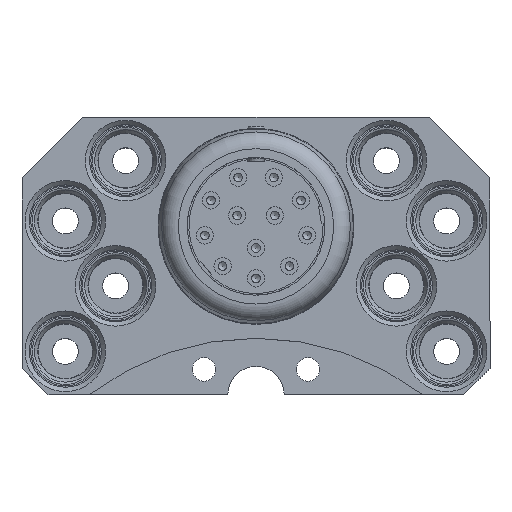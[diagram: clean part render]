
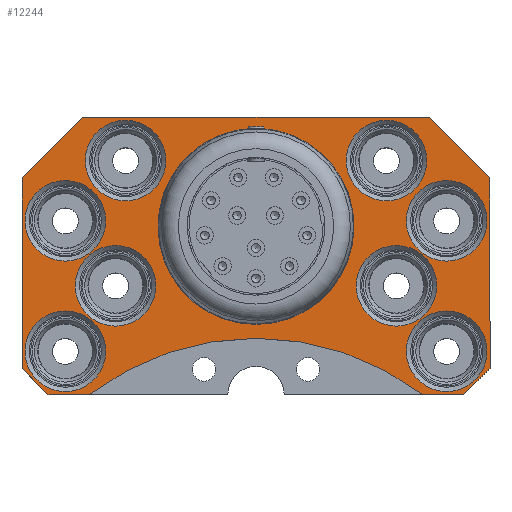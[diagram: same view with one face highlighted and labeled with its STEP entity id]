
A CAD part, top view. The second image highlights one B-rep face of the part: STEP entity #12244.
In plain terms, the highlighted planar face has unit normal (0, 0, 1).
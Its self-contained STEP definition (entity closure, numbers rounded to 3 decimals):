
#11557=CARTESIAN_POINT('',(0.0,8.1,0.));
#11558=VERTEX_POINT('',#11557);
#11559=CARTESIAN_POINT('',(0.0,19.4,0.));
#11560=DIRECTION('',(0.0,0.0,-1.0));
#11561=DIRECTION('',(0.0,-1.0,0.0));
#11562=AXIS2_PLACEMENT_3D('',#11559,#11560,#11561);
#11563=CIRCLE('',#11562,11.3);
#11564=EDGE_CURVE('',#11558,#11558,#11563,.T.);
#12061=CARTESIAN_POINT('',(20.85,12.55,0.0));
#12062=VERTEX_POINT('',#12061);
#12063=CARTESIAN_POINT('',(16.2,12.55,0.0));
#12064=DIRECTION('',(0.0,0.0,1.0));
#12065=DIRECTION('',(-1.0,0.0,0.0));
#12066=AXIS2_PLACEMENT_3D('',#12063,#12064,#12065);
#12067=CIRCLE('',#12066,4.65);
#12068=EDGE_CURVE('',#12062,#12062,#12067,.T.);
#12073=CARTESIAN_POINT('',(0.,15.429,0.0));
#12074=DIRECTION('',(0.0,0.0,1.0));
#12075=DIRECTION('',(1.0,0.0,0.0));
#12076=AXIS2_PLACEMENT_3D('',#12073,#12074,#12075);
#12077=PLANE('',#12076);
#12078=CARTESIAN_POINT('',(-19.198,0.,0.0));
#12079=VERTEX_POINT('',#12078);
#12080=CARTESIAN_POINT('',(19.198,0.,0.0));
#12081=VERTEX_POINT('',#12080);
#12082=CARTESIAN_POINT('',(0.0,-25.1,0.0));
#12083=DIRECTION('',(0.0,0.0,-1.0));
#12084=DIRECTION('',(-1.0,0.0,0.0));
#12085=AXIS2_PLACEMENT_3D('',#12082,#12083,#12084);
#12086=CIRCLE('',#12085,31.6);
#12087=EDGE_CURVE('',#12079,#12081,#12086,.T.);
#12088=ORIENTED_EDGE('',*,*,#12087,.T.);
#12089=CARTESIAN_POINT('',(24.,0.,0.0));
#12090=VERTEX_POINT('',#12089);
#12091=CARTESIAN_POINT('',(24.,0.,0.0));
#12092=DIRECTION('',(-1.0,0.0,0.0));
#12093=VECTOR('',#12092,4.802);
#12094=LINE('',#12091,#12093);
#12095=EDGE_CURVE('',#12090,#12081,#12094,.T.);
#12096=ORIENTED_EDGE('',*,*,#12095,.F.);
#12097=CARTESIAN_POINT('',(27.,3.,0.0));
#12098=VERTEX_POINT('',#12097);
#12099=CARTESIAN_POINT('',(27.,3.,0.0));
#12100=DIRECTION('',(-0.707,-0.707,0.0));
#12101=VECTOR('',#12100,4.243);
#12102=LINE('',#12099,#12101);
#12103=EDGE_CURVE('',#12098,#12090,#12102,.T.);
#12104=ORIENTED_EDGE('',*,*,#12103,.F.);
#12105=CARTESIAN_POINT('',(27.,25.,0.0));
#12106=VERTEX_POINT('',#12105);
#12107=CARTESIAN_POINT('',(27.,25.,0.0));
#12108=DIRECTION('',(0.0,-1.0,0.0));
#12109=VECTOR('',#12108,22.);
#12110=LINE('',#12107,#12109);
#12111=EDGE_CURVE('',#12106,#12098,#12110,.T.);
#12112=ORIENTED_EDGE('',*,*,#12111,.F.);
#12113=CARTESIAN_POINT('',(20.,32.,0.0));
#12114=VERTEX_POINT('',#12113);
#12115=CARTESIAN_POINT('',(20.,32.,0.0));
#12116=DIRECTION('',(0.707,-0.707,0.0));
#12117=VECTOR('',#12116,9.899);
#12118=LINE('',#12115,#12117);
#12119=EDGE_CURVE('',#12114,#12106,#12118,.T.);
#12120=ORIENTED_EDGE('',*,*,#12119,.F.);
#12121=CARTESIAN_POINT('',(-20.,32.,0.0));
#12122=VERTEX_POINT('',#12121);
#12123=CARTESIAN_POINT('',(-20.,32.,0.0));
#12124=DIRECTION('',(1.0,0.0,0.0));
#12125=VECTOR('',#12124,40.0);
#12126=LINE('',#12123,#12125);
#12127=EDGE_CURVE('',#12122,#12114,#12126,.T.);
#12128=ORIENTED_EDGE('',*,*,#12127,.F.);
#12129=CARTESIAN_POINT('',(-27.,25.,0.0));
#12130=VERTEX_POINT('',#12129);
#12131=CARTESIAN_POINT('',(-27.,25.,0.0));
#12132=DIRECTION('',(0.707,0.707,0.0));
#12133=VECTOR('',#12132,9.899);
#12134=LINE('',#12131,#12133);
#12135=EDGE_CURVE('',#12130,#12122,#12134,.T.);
#12136=ORIENTED_EDGE('',*,*,#12135,.F.);
#12137=CARTESIAN_POINT('',(-27.0,3.,0.0));
#12138=VERTEX_POINT('',#12137);
#12139=CARTESIAN_POINT('',(-27.0,3.,0.0));
#12140=DIRECTION('',(0.0,1.0,0.0));
#12141=VECTOR('',#12140,22.);
#12142=LINE('',#12139,#12141);
#12143=EDGE_CURVE('',#12138,#12130,#12142,.T.);
#12144=ORIENTED_EDGE('',*,*,#12143,.F.);
#12145=CARTESIAN_POINT('',(-24.,0.,0.0));
#12146=VERTEX_POINT('',#12145);
#12147=CARTESIAN_POINT('',(-24.,0.,0.0));
#12148=DIRECTION('',(-0.707,0.707,0.0));
#12149=VECTOR('',#12148,4.243);
#12150=LINE('',#12147,#12149);
#12151=EDGE_CURVE('',#12146,#12138,#12150,.T.);
#12152=ORIENTED_EDGE('',*,*,#12151,.F.);
#12153=CARTESIAN_POINT('',(-19.198,0.,0.0));
#12154=DIRECTION('',(-1.0,0.0,0.0));
#12155=VECTOR('',#12154,4.802);
#12156=LINE('',#12153,#12155);
#12157=EDGE_CURVE('',#12079,#12146,#12156,.T.);
#12158=ORIENTED_EDGE('',*,*,#12157,.F.);
#12159=EDGE_LOOP('',(#12088,#12096,#12104,#12112,#12120,#12128,#12136,#12144,#12152,#12158));
#12160=FACE_OUTER_BOUND('',#12159,.T.);
#12161=ORIENTED_EDGE('',*,*,#11564,.T.);
#12162=EDGE_LOOP('',(#12161));
#12163=FACE_BOUND('',#12162,.T.);
#12164=CARTESIAN_POINT('',(26.65,5.,0.0));
#12165=VERTEX_POINT('',#12164);
#12166=CARTESIAN_POINT('',(22.,5.,0.0));
#12167=DIRECTION('',(0.0,0.0,1.0));
#12168=DIRECTION('',(-1.0,0.0,0.0));
#12169=AXIS2_PLACEMENT_3D('',#12166,#12167,#12168);
#12170=CIRCLE('',#12169,4.65);
#12171=EDGE_CURVE('',#12165,#12165,#12170,.T.);
#12172=ORIENTED_EDGE('',*,*,#12171,.F.);
#12173=EDGE_LOOP('',(#12172));
#12174=FACE_BOUND('',#12173,.T.);
#12175=CARTESIAN_POINT('',(26.65,20.05,0.0));
#12176=VERTEX_POINT('',#12175);
#12177=CARTESIAN_POINT('',(22.0,20.05,0.0));
#12178=DIRECTION('',(0.0,0.0,1.0));
#12179=DIRECTION('',(-1.0,0.0,0.0));
#12180=AXIS2_PLACEMENT_3D('',#12177,#12178,#12179);
#12181=CIRCLE('',#12180,4.65);
#12182=EDGE_CURVE('',#12176,#12176,#12181,.T.);
#12183=ORIENTED_EDGE('',*,*,#12182,.F.);
#12184=EDGE_LOOP('',(#12183));
#12185=FACE_BOUND('',#12184,.T.);
#12186=CARTESIAN_POINT('',(19.7,27.,0.0));
#12187=VERTEX_POINT('',#12186);
#12188=CARTESIAN_POINT('',(15.05,27.,0.0));
#12189=DIRECTION('',(0.0,0.0,1.0));
#12190=DIRECTION('',(-1.0,0.0,0.0));
#12191=AXIS2_PLACEMENT_3D('',#12188,#12189,#12190);
#12192=CIRCLE('',#12191,4.65);
#12193=EDGE_CURVE('',#12187,#12187,#12192,.T.);
#12194=ORIENTED_EDGE('',*,*,#12193,.F.);
#12195=EDGE_LOOP('',(#12194));
#12196=FACE_BOUND('',#12195,.T.);
#12197=CARTESIAN_POINT('',(-10.4,27.0,0.0));
#12198=VERTEX_POINT('',#12197);
#12199=CARTESIAN_POINT('',(-15.05,27.0,0.0));
#12200=DIRECTION('',(0.0,0.0,1.0));
#12201=DIRECTION('',(-1.0,0.0,0.0));
#12202=AXIS2_PLACEMENT_3D('',#12199,#12200,#12201);
#12203=CIRCLE('',#12202,4.65);
#12204=EDGE_CURVE('',#12198,#12198,#12203,.T.);
#12205=ORIENTED_EDGE('',*,*,#12204,.F.);
#12206=EDGE_LOOP('',(#12205));
#12207=FACE_BOUND('',#12206,.T.);
#12208=CARTESIAN_POINT('',(-17.35,20.05,0.0));
#12209=VERTEX_POINT('',#12208);
#12210=CARTESIAN_POINT('',(-22.0,20.05,0.0));
#12211=DIRECTION('',(0.0,0.0,1.0));
#12212=DIRECTION('',(-1.0,0.0,0.0));
#12213=AXIS2_PLACEMENT_3D('',#12210,#12211,#12212);
#12214=CIRCLE('',#12213,4.65);
#12215=EDGE_CURVE('',#12209,#12209,#12214,.T.);
#12216=ORIENTED_EDGE('',*,*,#12215,.F.);
#12217=EDGE_LOOP('',(#12216));
#12218=FACE_BOUND('',#12217,.T.);
#12219=CARTESIAN_POINT('',(-11.55,12.55,0.0));
#12220=VERTEX_POINT('',#12219);
#12221=CARTESIAN_POINT('',(-16.2,12.55,0.0));
#12222=DIRECTION('',(0.0,0.0,1.0));
#12223=DIRECTION('',(-1.0,0.0,0.0));
#12224=AXIS2_PLACEMENT_3D('',#12221,#12222,#12223);
#12225=CIRCLE('',#12224,4.65);
#12226=EDGE_CURVE('',#12220,#12220,#12225,.T.);
#12227=ORIENTED_EDGE('',*,*,#12226,.F.);
#12228=EDGE_LOOP('',(#12227));
#12229=FACE_BOUND('',#12228,.T.);
#12230=CARTESIAN_POINT('',(-17.35,5.,0.0));
#12231=VERTEX_POINT('',#12230);
#12232=CARTESIAN_POINT('',(-22.,5.,0.0));
#12233=DIRECTION('',(0.0,0.0,1.0));
#12234=DIRECTION('',(-1.0,0.0,0.0));
#12235=AXIS2_PLACEMENT_3D('',#12232,#12233,#12234);
#12236=CIRCLE('',#12235,4.65);
#12237=EDGE_CURVE('',#12231,#12231,#12236,.T.);
#12238=ORIENTED_EDGE('',*,*,#12237,.F.);
#12239=EDGE_LOOP('',(#12238));
#12240=FACE_BOUND('',#12239,.T.);
#12241=ORIENTED_EDGE('',*,*,#12068,.F.);
#12242=EDGE_LOOP('',(#12241));
#12243=FACE_BOUND('',#12242,.T.);
#12244=ADVANCED_FACE('',(#12160,#12163,#12174,#12185,#12196,#12207,#12218,#12229,#12240,#12243),#12077,.T.);
